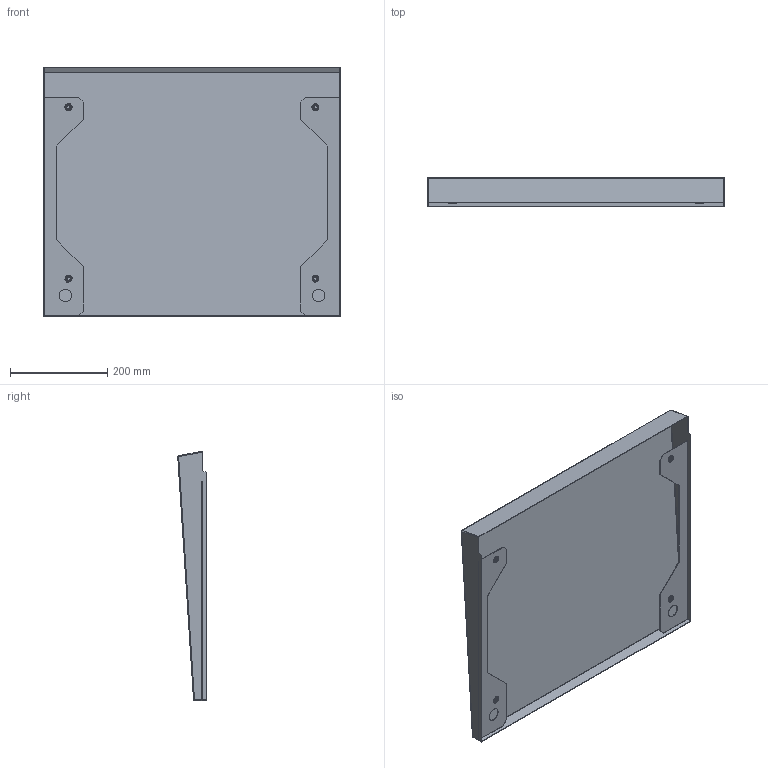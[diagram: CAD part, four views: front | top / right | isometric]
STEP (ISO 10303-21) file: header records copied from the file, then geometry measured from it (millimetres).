
FILE_DESCRIPTION (( 'STEP AP203' ), '1' );
FILE_NAME ('R 60.50 Cﾁ ﾊ鰀靍裲 鈞隆.STEP', '2012-11-21T04:24:01', ( 'system' ), ( '' ), 'SwSTEP 2.0', 'SolidWorks 2012', '' );
FILE_SCHEMA (( 'CONFIG_CONTROL_DESIGN' ));
Length unit declared in the file: millimetre
Products named in the file (1): R 60.50 Cﾁ ﾊ鰀靍裲 鈞隆
Bounding box: 610 x 58.84 x 513.49 mm (x, y, z)
Volume: 614787.4 mm3; surface area: 882947.7 mm2
Topology: 5 solids, 5 shells, 152 faces, 354 edges, 224 vertices
Faces by surface type: cylinder 60, plane 60, torus 16, sphere 8, cone 8
Entity records: 4419 total; most frequent: DIRECTION 824, CARTESIAN_POINT 731, ORIENTED_EDGE 692, EDGE_CURVE 346, AXIS2_PLACEMENT_3D 329, VERTEX_POINT 220, EDGE_LOOP 188, CIRCLE 176
